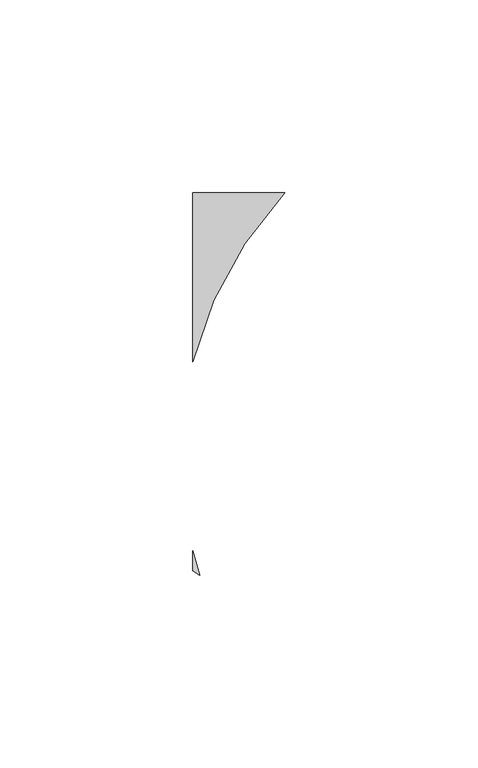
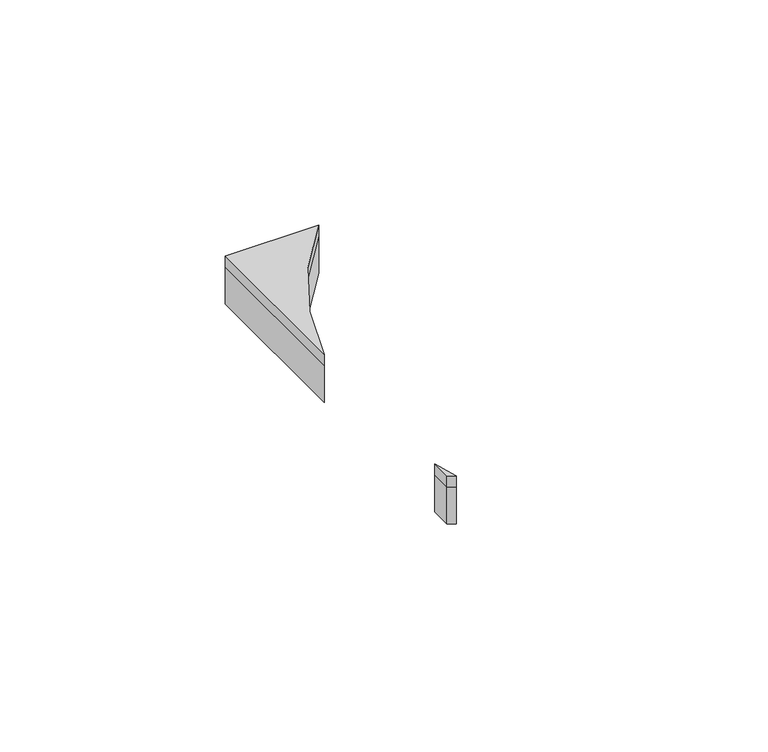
"""IFC4 building model written with IfcOpenShell, lengths in millimetres: proxy geometry, FilzFelt_Fish_Block : Fish Block."""

from ifc_helpers import new_model, si_unit, point, frame, frame_2d, origin, origin_with_axes, place, context, project, spatial, polyline, circle_curve, trimmed, segment, composite_curve, outline, extrude, source, transform, mapped, element, save


def specialty_equipment_b9e3a514(model_context):
    return source(origin(), model_context, "Body", "SweptSolid", [
        extrude(outline(composite_curve([segment(polyline([(29.4379865, -68.813432), (53.3600205, -68.813432)]), True, "CONTINUOUS"), segment(trimmed(circle_curve(frame_2d((126.6124317, -137.2240266)), 100.2293629), [point((53.3600205, -68.813432))], [point((29.4379865, -112.6669015))], True, "CARTESIAN"), True, "CONTINUOUS"), segment(polyline([(29.4379865, -112.6669015), (29.4379865, -68.813432)]), True, "CONTINUOUS")], self_intersect=False)), frame((0.0, 0.0, 10.0210937), z_axis=(0.0, 0.0, 1.0), x_axis=(1.0, 0.0, 0.0)), (0.0, 0.0, 1.0), 2.9765625),
        extrude(outline(composite_curve([segment(trimmed(circle_curve(frame_2d((57.9263497, -124.2921115)), 51.2968574), [point((31.2619065, -168.1141956))], [point((29.4379865, -166.9509997))], False, "CARTESIAN"), True, "CONTINUOUS"), segment(polyline([(29.4379865, -166.9509997), (29.4379865, -161.7811517)]), True, "CONTINUOUS"), segment(trimmed(circle_curve(frame_2d((126.6124317, -137.2240266)), 100.2293629), [point((29.4379865, -161.7811517))], [point((31.2619065, -168.1141956))], True, "CARTESIAN"), True, "CONTINUOUS")], self_intersect=False)), frame((0.0, 0.0, 10.0210937), z_axis=(0.0, 0.0, 1.0), x_axis=(1.0, 0.0, 0.0)), (0.0, 0.0, 1.0), 2.9765625),
        extrude(outline(composite_curve([segment(polyline([(29.4379865, -68.813432), (53.3600205, -68.813432)]), True, "CONTINUOUS"), segment(trimmed(circle_curve(frame_2d((126.6124317, -137.2240266)), 100.2293629), [point((53.3600205, -68.813432))], [point((29.4379865, -112.6669015))], True, "CARTESIAN"), True, "CONTINUOUS"), segment(polyline([(29.4379865, -112.6669015), (29.4379865, -68.813432)]), True, "CONTINUOUS")], self_intersect=False)), origin_with_axes(), (0.0, 0.0, 1.0), 10.0210938),
        extrude(outline(composite_curve([segment(trimmed(circle_curve(frame_2d((57.9263497, -124.2921115)), 51.2968574), [point((31.2619065, -168.1141956))], [point((29.4379865, -166.9509997))], False, "CARTESIAN"), True, "CONTINUOUS"), segment(polyline([(29.4379865, -166.9509997), (29.4379865, -161.7811517)]), True, "CONTINUOUS"), segment(trimmed(circle_curve(frame_2d((126.6124317, -137.2240266)), 100.2293629), [point((29.4379865, -161.7811517))], [point((31.2619065, -168.1141956))], True, "CARTESIAN"), True, "CONTINUOUS")], self_intersect=False)), origin_with_axes(), (0.0, 0.0, 1.0), 10.0210938),
    ])


if __name__ == "__main__":
    model = new_model("IFC4")
    model_context = context("Model", 3, world=origin())
    ifc_project = project(units=[si_unit("LENGTHUNIT", "METRE", prefix="MILLI")], contexts=[model_context])
    site = spatial("IfcSite", under=ifc_project)
    building = spatial("IfcBuilding", under=site)
    placement = place(None, origin())
    specialty_equipment_shape = specialty_equipment_b9e3a514(model_context)
    element("IfcBuildingElementProxy", 1, Name="FilzFelt_Fish_Block : Fish Block", ObjectType="FilzFelt_Fish_Block : Fish Block", at=placement, inside=building, context=model_context, shape_type="MappedRepresentation", body=[
        mapped(specialty_equipment_shape, transform((0.0, 0.0, 0.0), x_axis=(1.0, 0.0, 0.0), y_axis=(0.0, 1.0, 0.0), z_axis=(0.0, 0.0, 1.0))),
    ])
    save(model, "model.ifc")
